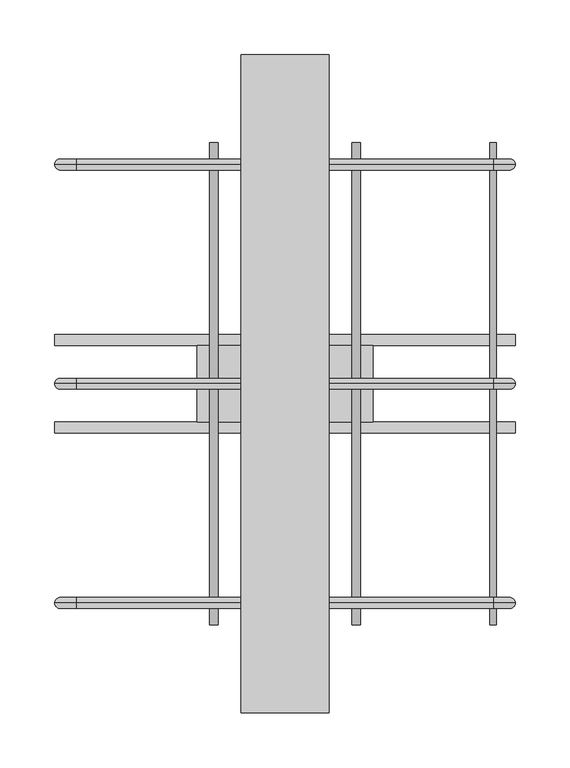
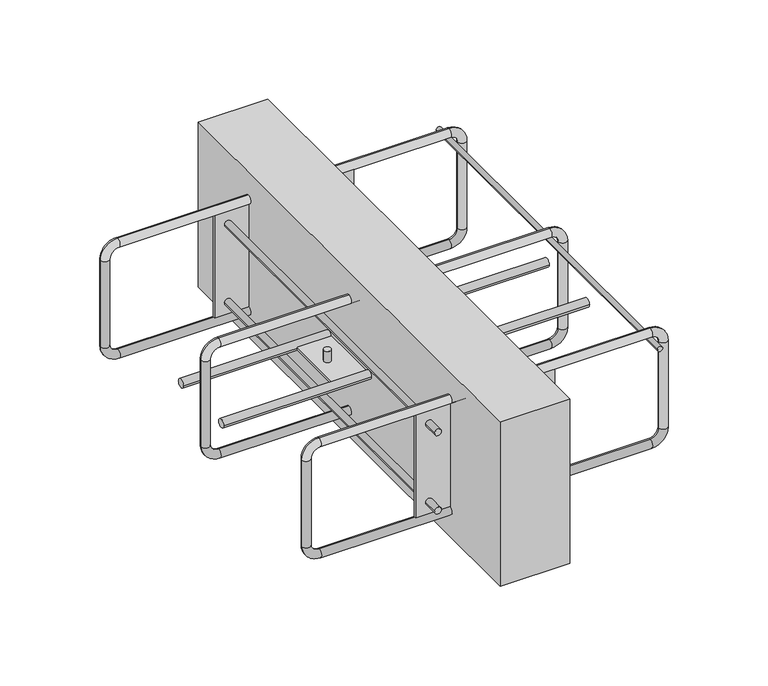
"""IFC4 building model written with IfcOpenShell, lengths in millimetres: fastener geometry, ACINOXplus_Typenreihe_Ux-Ox : OA+ S1."""

from ifc_helpers import new_model, si_unit, point, frame, frame_2d, origin, place, context, project, spatial, polyline, circle_curve, ellipse_curve, trimmed, segment, composite_curve, outline, extrude, source, transform, mapped, element, save
from ifc_brep_helpers import cylinder_surface, revolved_surface, advanced_brep


def fastener_464901d0(model_context):
    return source(origin(), model_context, "Body", "SolidModel", [
        extrude(outline(composite_curve([segment(trimmed(circle_curve(frame_2d((-40.5, 190.0)), 3.0), [point((-40.5, 193.0))], [point((-40.5, 187.0))], False, "CARTESIAN"), True, "CONTINUOUS"), segment(trimmed(circle_curve(frame_2d((-40.5, 190.0)), 3.0), [point((-40.5, 187.0))], [point((-40.5, 193.0))], False, "CARTESIAN"), True, "CONTINUOUS")], self_intersect=False)), frame((0.0, -220.0, 0.0), z_axis=(0.0, 1.0, 0.0), x_axis=(0.0, 0.0, 1.0)), (0.0, 0.0, 1.0), 440.0),
        extrude(outline(polyline([(40.0, 300.0), (40.0, -300.0), (-40.0, -300.0), (-40.0, 300.0), (40.0, 300.0)])), frame((0.0, 0.0, -200.0), z_axis=(0.0, 0.0, 1.0), x_axis=(1.0, 0.0, 0.0)), (0.0, 0.0, 1.0), 200.0),
        extrude(outline(composite_curve([segment(trimmed(circle_curve(frame_2d((-40.0, -100.0)), 5.0), [point((-45.0, -100.0))], [point((-35.0, -100.0))], False, "CARTESIAN"), True, "CONTINUOUS"), segment(trimmed(circle_curve(frame_2d((-40.0, -100.0)), 5.0), [point((-35.0, -100.0))], [point((-45.0, -100.0))], False, "CARTESIAN"), True, "CONTINUOUS")], self_intersect=False)), frame((-210.0, 0.0, 0.0), z_axis=(1.0, 0.0, 0.0), x_axis=(0.0, 1.0, 0.0)), (0.0, 0.0, 1.0), 420.0),
        extrude(outline(composite_curve([segment(trimmed(circle_curve(frame_2d((40.0, -100.0)), 5.0), [point((35.0, -100.0))], [point((45.0, -100.0))], False, "CARTESIAN"), True, "CONTINUOUS"), segment(trimmed(circle_curve(frame_2d((40.0, -100.0)), 5.0), [point((45.0, -100.0))], [point((35.0, -100.0))], False, "CARTESIAN"), True, "CONTINUOUS")], self_intersect=False)), frame((-210.0, 0.0, 0.0), z_axis=(1.0, 0.0, 0.0), x_axis=(0.0, 1.0, 0.0)), (0.0, 0.0, 1.0), 420.0),
        extrude(outline(composite_curve([segment(trimmed(circle_curve(frame_2d((-65.0, 0.0)), 4.0), [point((-61.0, 0.0))], [point((-69.0, 0.0))], False, "CARTESIAN"), True, "CONTINUOUS"), segment(trimmed(circle_curve(frame_2d((-65.0, 0.0)), 4.0), [point((-69.0, 0.0))], [point((-61.0, 0.0))], False, "CARTESIAN"), True, "CONTINUOUS")], self_intersect=False)), frame((0.0, 0.0, -98.5), z_axis=(0.0, 0.0, 1.0), x_axis=(1.0, 0.0, 0.0)), (0.0, 0.0, 1.0), 13.5),
        extrude(outline(composite_curve([segment(trimmed(circle_curve(frame_2d((65.0, 0.0)), 4.0), [point((69.0, 0.0))], [point((61.0, 0.0))], False, "CARTESIAN"), True, "CONTINUOUS"), segment(trimmed(circle_curve(frame_2d((65.0, 0.0)), 4.0), [point((61.0, 0.0))], [point((69.0, 0.0))], False, "CARTESIAN"), True, "CONTINUOUS")], self_intersect=False)), frame((0.0, 0.0, -98.5), z_axis=(0.0, 0.0, 1.0), x_axis=(1.0, 0.0, 0.0)), (0.0, 0.0, 1.0), 13.5),
        extrude(outline(composite_curve([segment(trimmed(circle_curve(frame_2d((-65.0, 0.0)), 4.0), [point((-69.0, 0.0))], [point((-61.0, 0.0))], False, "CARTESIAN"), True, "CONTINUOUS"), segment(trimmed(circle_curve(frame_2d((-65.0, 0.0)), 4.0), [point((-61.0, 0.0))], [point((-69.0, 0.0))], False, "CARTESIAN"), True, "CONTINUOUS")], self_intersect=False)), frame((0.0, 0.0, -115.0), z_axis=(0.0, 0.0, 1.0), x_axis=(1.0, 0.0, 0.0)), (0.0, 0.0, 1.0), 13.5),
        extrude(outline(composite_curve([segment(trimmed(circle_curve(frame_2d((65.0, 0.0)), 4.0), [point((61.0, 0.0))], [point((69.0, 0.0))], False, "CARTESIAN"), True, "CONTINUOUS"), segment(trimmed(circle_curve(frame_2d((65.0, 0.0)), 4.0), [point((69.0, 0.0))], [point((61.0, 0.0))], False, "CARTESIAN"), True, "CONTINUOUS")], self_intersect=False)), frame((0.0, 0.0, -115.0), z_axis=(0.0, 0.0, 1.0), x_axis=(1.0, 0.0, 0.0)), (0.0, 0.0, 1.0), 13.5),
        extrude(outline(polyline([(80.0, 35.0), (80.0, -35.0), (-80.0, -35.0), (-80.0, 35.0), (80.0, 35.0)])), frame((0.0, 0.0, -101.5), z_axis=(0.0, 0.0, 1.0), x_axis=(1.0, 0.0, 0.0)), (0.0, 0.0, 1.0), 3.0),
        extrude(outline(polyline([(80.0, -198.5), (80.0, -201.5), (-80.0, -201.5), (-80.0, -198.5), (80.0, -198.5)])), frame((0.0, 0.0, -162.5), z_axis=(0.0, 0.0, 1.0), x_axis=(1.0, 0.0, 0.0)), (0.0, 0.0, 1.0), 125.0),
        extrude(outline(polyline([(80.0, 201.5), (80.0, 198.5), (-80.0, 198.5), (-80.0, 201.5), (80.0, 201.5)])), frame((0.0, 0.0, -162.5), z_axis=(0.0, 0.0, 1.0), x_axis=(1.0, 0.0, 0.0)), (0.0, 0.0, 1.0), 125.0),
        extrude(outline(composite_curve([segment(trimmed(circle_curve(frame_2d((-147.5, -65.0)), 4.0), [point((-147.5, -69.0))], [point((-147.5, -61.0))], False, "CARTESIAN"), True, "CONTINUOUS"), segment(trimmed(circle_curve(frame_2d((-147.5, -65.0)), 4.0), [point((-147.5, -61.0))], [point((-147.5, -69.0))], False, "CARTESIAN"), True, "CONTINUOUS")], self_intersect=False)), frame((0.0, 201.5, 0.0), z_axis=(0.0, 1.0, 0.0), x_axis=(0.0, 0.0, 1.0)), (0.0, 0.0, 1.0), 18.5),
        extrude(outline(composite_curve([segment(trimmed(circle_curve(frame_2d((-147.5, -65.0)), 4.0), [point((-147.5, -61.0))], [point((-147.5, -69.0))], False, "CARTESIAN"), True, "CONTINUOUS"), segment(trimmed(circle_curve(frame_2d((-147.5, -65.0)), 4.0), [point((-147.5, -69.0))], [point((-147.5, -61.0))], False, "CARTESIAN"), True, "CONTINUOUS")], self_intersect=False)), frame((0.0, -220.0, 0.0), z_axis=(0.0, 1.0, 0.0), x_axis=(0.0, 0.0, 1.0)), (0.0, 0.0, 1.0), 18.5),
        extrude(outline(composite_curve([segment(trimmed(circle_curve(frame_2d((-147.5, -65.0)), 4.0), [point((-147.5, -69.0))], [point((-147.5, -61.0))], False, "CARTESIAN"), True, "CONTINUOUS"), segment(trimmed(circle_curve(frame_2d((-147.5, -65.0)), 4.0), [point((-147.5, -61.0))], [point((-147.5, -69.0))], False, "CARTESIAN"), True, "CONTINUOUS")], self_intersect=False)), frame((0.0, -198.5, 0.0), z_axis=(0.0, 1.0, 0.0), x_axis=(0.0, 0.0, 1.0)), (0.0, 0.0, 1.0), 397.0),
        extrude(outline(composite_curve([segment(trimmed(circle_curve(frame_2d((-147.5, 65.0)), 4.0), [point((-147.5, 61.0))], [point((-147.5, 69.0))], False, "CARTESIAN"), True, "CONTINUOUS"), segment(trimmed(circle_curve(frame_2d((-147.5, 65.0)), 4.0), [point((-147.5, 69.0))], [point((-147.5, 61.0))], False, "CARTESIAN"), True, "CONTINUOUS")], self_intersect=False)), frame((0.0, 201.5, 0.0), z_axis=(0.0, 1.0, 0.0), x_axis=(0.0, 0.0, 1.0)), (0.0, 0.0, 1.0), 18.5),
        extrude(outline(composite_curve([segment(trimmed(circle_curve(frame_2d((-147.5, 65.0)), 4.0), [point((-147.5, 69.0))], [point((-147.5, 61.0))], False, "CARTESIAN"), True, "CONTINUOUS"), segment(trimmed(circle_curve(frame_2d((-147.5, 65.0)), 4.0), [point((-147.5, 61.0))], [point((-147.5, 69.0))], False, "CARTESIAN"), True, "CONTINUOUS")], self_intersect=False)), frame((0.0, -220.0, 0.0), z_axis=(0.0, 1.0, 0.0), x_axis=(0.0, 0.0, 1.0)), (0.0, 0.0, 1.0), 18.5),
        extrude(outline(composite_curve([segment(trimmed(circle_curve(frame_2d((-147.5, 65.0)), 4.0), [point((-147.5, 61.0))], [point((-147.5, 69.0))], False, "CARTESIAN"), True, "CONTINUOUS"), segment(trimmed(circle_curve(frame_2d((-147.5, 65.0)), 4.0), [point((-147.5, 69.0))], [point((-147.5, 61.0))], False, "CARTESIAN"), True, "CONTINUOUS")], self_intersect=False)), frame((0.0, -198.5, 0.0), z_axis=(0.0, 1.0, 0.0), x_axis=(0.0, 0.0, 1.0)), (0.0, 0.0, 1.0), 397.0),
        extrude(outline(composite_curve([segment(trimmed(circle_curve(frame_2d((-52.5, -65.0)), 4.0), [point((-52.5, -69.0))], [point((-52.5, -61.0))], False, "CARTESIAN"), True, "CONTINUOUS"), segment(trimmed(circle_curve(frame_2d((-52.5, -65.0)), 4.0), [point((-52.5, -61.0))], [point((-52.5, -69.0))], False, "CARTESIAN"), True, "CONTINUOUS")], self_intersect=False)), frame((0.0, 201.5, 0.0), z_axis=(0.0, 1.0, 0.0), x_axis=(0.0, 0.0, 1.0)), (0.0, 0.0, 1.0), 18.5),
        extrude(outline(composite_curve([segment(trimmed(circle_curve(frame_2d((-52.5, -65.0)), 4.0), [point((-52.5, -61.0))], [point((-52.5, -69.0))], False, "CARTESIAN"), True, "CONTINUOUS"), segment(trimmed(circle_curve(frame_2d((-52.5, -65.0)), 4.0), [point((-52.5, -69.0))], [point((-52.5, -61.0))], False, "CARTESIAN"), True, "CONTINUOUS")], self_intersect=False)), frame((0.0, -220.0, 0.0), z_axis=(0.0, 1.0, 0.0), x_axis=(0.0, 0.0, 1.0)), (0.0, 0.0, 1.0), 18.5),
        extrude(outline(composite_curve([segment(trimmed(circle_curve(frame_2d((-52.5, -65.0)), 4.0), [point((-52.5, -69.0))], [point((-52.5, -61.0))], False, "CARTESIAN"), True, "CONTINUOUS"), segment(trimmed(circle_curve(frame_2d((-52.5, -65.0)), 4.0), [point((-52.5, -61.0))], [point((-52.5, -69.0))], False, "CARTESIAN"), True, "CONTINUOUS")], self_intersect=False)), frame((0.0, -198.5, 0.0), z_axis=(0.0, 1.0, 0.0), x_axis=(0.0, 0.0, 1.0)), (0.0, 0.0, 1.0), 397.0),
        extrude(outline(composite_curve([segment(trimmed(circle_curve(frame_2d((-52.5, 65.0)), 4.0), [point((-52.5, 61.0))], [point((-52.5, 69.0))], False, "CARTESIAN"), True, "CONTINUOUS"), segment(trimmed(circle_curve(frame_2d((-52.5, 65.0)), 4.0), [point((-52.5, 69.0))], [point((-52.5, 61.0))], False, "CARTESIAN"), True, "CONTINUOUS")], self_intersect=False)), frame((0.0, 201.5, 0.0), z_axis=(0.0, 1.0, 0.0), x_axis=(0.0, 0.0, 1.0)), (0.0, 0.0, 1.0), 18.5),
        extrude(outline(composite_curve([segment(trimmed(circle_curve(frame_2d((-52.5, 65.0)), 4.0), [point((-52.5, 69.0))], [point((-52.5, 61.0))], False, "CARTESIAN"), True, "CONTINUOUS"), segment(trimmed(circle_curve(frame_2d((-52.5, 65.0)), 4.0), [point((-52.5, 61.0))], [point((-52.5, 69.0))], False, "CARTESIAN"), True, "CONTINUOUS")], self_intersect=False)), frame((0.0, -220.0, 0.0), z_axis=(0.0, 1.0, 0.0), x_axis=(0.0, 0.0, 1.0)), (0.0, 0.0, 1.0), 18.5),
        extrude(outline(composite_curve([segment(trimmed(circle_curve(frame_2d((-52.5, 65.0)), 4.0), [point((-52.5, 61.0))], [point((-52.5, 69.0))], False, "CARTESIAN"), True, "CONTINUOUS"), segment(trimmed(circle_curve(frame_2d((-52.5, 65.0)), 4.0), [point((-52.5, 69.0))], [point((-52.5, 61.0))], False, "CARTESIAN"), True, "CONTINUOUS")], self_intersect=False)), frame((0.0, -198.5, 0.0), z_axis=(0.0, 1.0, 0.0), x_axis=(0.0, 0.0, 1.0)), (0.0, 0.0, 1.0), 397.0),
        advanced_brep(
        [(190.0, 0.0, -37.5), (190.0, 0.0, -27.5), (-190.0, 0.0, -27.5), (-190.0, 0.0, -37.5), (-200.0, 0.0, -47.5), (-210.0, 0.0, -47.5), (-210.0, 0.0, -152.5), (-200.0, 0.0, -152.5), (-190.0, 0.0, -162.5), (-190.0, 0.0, -172.5), (190.0, 0.0, -172.5), (190.0, 0.0, -162.5), (200.0, 0.0, -152.5), (210.0, 0.0, -152.5), (210.0, 0.0, -47.5), (200.0, 0.0, -47.5)],
        [
            (0, 1, circle_curve(frame((190.0, 0.0, -32.5), z_axis=(-1.0, 0.0, 0.0), x_axis=(0.0, 0.0, -1.0)), 5.0)),
            (1, 2),
            (2, 3, circle_curve(frame((-190.0, 0.0, -32.5), z_axis=(1.0, 0.0, 0.0), x_axis=(0.0, 0.0, -1.0)), 5.0)),
            (3, 0),
            (1, 0, circle_curve(frame((190.0, 0.0, -32.5), z_axis=(-1.0, 0.0, 0.0), x_axis=(0.0, 0.0, -1.0)), 5.0)),
            (3, 2, circle_curve(frame((-190.0, 0.0, -32.5), z_axis=(1.0, 0.0, 0.0), x_axis=(0.0, 0.0, -1.0)), 5.0)),
            (4, 3, circle_curve(frame((-190.0, 0.0, -47.5), z_axis=(0.0, 1.0, 0.0), x_axis=(0.0, 0.0, 1.0)), 10.0)),
            (2, 5, circle_curve(frame((-190.0, 0.0, -47.5), z_axis=(0.0, -1.0, 0.0), x_axis=(0.0, 0.0, 1.0)), 20.0)),
            (5, 4, circle_curve(frame((-205.0, 0.0, -47.5), z_axis=(0.0, 0.0, 1.0), x_axis=(1.0, 0.0, 0.0)), 5.0)),
            (4, 5, circle_curve(frame((-205.0, 0.0, -47.5), z_axis=(0.0, 0.0, 1.0), x_axis=(1.0, 0.0, 0.0)), 5.0)),
            (5, 6),
            (6, 7, circle_curve(frame((-205.0, 0.0, -152.5), z_axis=(0.0, 0.0, 1.0), x_axis=(1.0, 0.0, 0.0)), 5.0)),
            (7, 4),
            (7, 6, circle_curve(frame((-205.0, 0.0, -152.5), z_axis=(0.0, 0.0, 1.0), x_axis=(1.0, 0.0, 0.0)), 5.0)),
            (8, 7, circle_curve(frame((-190.0, 0.0, -152.5), z_axis=(0.0, 1.0, 0.0), x_axis=(-1.0, 0.0, 0.0)), 10.0)),
            (6, 9, circle_curve(frame((-190.0, 0.0, -152.5), z_axis=(0.0, -1.0, 0.0), x_axis=(-1.0, 0.0, 0.0)), 20.0)),
            (9, 8, circle_curve(frame((-190.0, 0.0, -167.5), z_axis=(-1.0, 0.0, 0.0), x_axis=(0.0, 0.0, 1.0)), 5.0)),
            (8, 9, circle_curve(frame((-190.0, 0.0, -167.5), z_axis=(-1.0, 0.0, 0.0), x_axis=(0.0, 0.0, 1.0)), 5.0)),
            (9, 10),
            (10, 11, circle_curve(frame((190.0, 0.0, -167.5), z_axis=(-1.0, 0.0, 0.0), x_axis=(0.0, 0.0, 1.0)), 5.0)),
            (11, 8),
            (11, 10, circle_curve(frame((190.0, 0.0, -167.5), z_axis=(-1.0, 0.0, 0.0), x_axis=(0.0, 0.0, 1.0)), 5.0)),
            (12, 11, circle_curve(frame((190.0, 0.0, -152.5), z_axis=(0.0, 1.0, 0.0), x_axis=(0.0, 0.0, -1.0)), 10.0)),
            (10, 13, circle_curve(frame((190.0, 0.0, -152.5), z_axis=(0.0, -1.0, 0.0), x_axis=(0.0, 0.0, -1.0)), 20.0)),
            (13, 12, circle_curve(frame((205.0, 0.0, -152.5), z_axis=(0.0, 0.0, -1.0), x_axis=(-1.0, 0.0, 0.0)), 5.0)),
            (12, 13, circle_curve(frame((205.0, 0.0, -152.5), z_axis=(0.0, 0.0, -1.0), x_axis=(-1.0, 0.0, 0.0)), 5.0)),
            (13, 14),
            (14, 15, circle_curve(frame((205.0, 0.0, -47.5), z_axis=(0.0, 0.0, -1.0), x_axis=(-1.0, 0.0, 0.0)), 5.0)),
            (15, 12),
            (15, 14, circle_curve(frame((205.0, 0.0, -47.5), z_axis=(0.0, 0.0, -1.0), x_axis=(-1.0, 0.0, 0.0)), 5.0)),
            (0, 15, circle_curve(frame((190.0, 0.0, -47.5), z_axis=(0.0, 1.0, 0.0), x_axis=(1.0, 0.0, 0.0)), 10.0)),
            (14, 1, circle_curve(frame((190.0, 0.0, -47.5), z_axis=(0.0, -1.0, 0.0), x_axis=(1.0, 0.0, 0.0)), 20.0)),
        ],
        [
            cylinder_surface(frame((190.0, 0.0, -32.5), z_axis=(1.0, 0.0, 0.0), x_axis=(0.0, 0.0, -1.0)), 5.0),
            revolved_surface(trimmed(ellipse_curve(frame((-190.0, 0.0, -32.5), z_axis=(1.0, 0.0, 0.0), x_axis=(0.0, 0.0, -1.0)), 5.0, 5.0), [point((-190.0, 0.0, -27.5))], [point((-190.0, 0.0, -37.5))], True, "CARTESIAN"), (-190.0, 0.0, -47.5), (0.0, -1.0, 0.0)),
            revolved_surface(trimmed(ellipse_curve(frame((-190.0, 0.0, -32.5), z_axis=(1.0, 0.0, 0.0), x_axis=(0.0, 0.0, -1.0)), 5.0, 5.0), [point((-190.0, 0.0, -37.5))], [point((-190.0, 0.0, -27.5))], True, "CARTESIAN"), (-190.0, 0.0, -47.5), (0.0, -1.0, 0.0)),
            cylinder_surface(frame((-205.0, 0.0, -47.5), z_axis=(0.0, 0.0, 1.0), x_axis=(1.0, 0.0, 0.0)), 5.0),
            revolved_surface(trimmed(ellipse_curve(frame((-205.0, 0.0, -152.5), z_axis=(0.0, 0.0, 1.0), x_axis=(1.0, 0.0, 0.0)), 5.0, 5.0), [point((-210.0, 0.0, -152.5))], [point((-200.0, 0.0, -152.5))], True, "CARTESIAN"), (-190.0, 0.0, -152.5), (0.0, -1.0, 0.0)),
            revolved_surface(trimmed(ellipse_curve(frame((-205.0, 0.0, -152.5), z_axis=(0.0, 0.0, 1.0), x_axis=(1.0, 0.0, 0.0)), 5.0, 5.0), [point((-200.0, 0.0, -152.5))], [point((-210.0, 0.0, -152.5))], True, "CARTESIAN"), (-190.0, 0.0, -152.5), (0.0, -1.0, 0.0)),
            cylinder_surface(frame((-190.0, 0.0, -167.5), z_axis=(-1.0, 0.0, 0.0), x_axis=(0.0, 0.0, 1.0)), 5.0),
            revolved_surface(trimmed(ellipse_curve(frame((190.0, 0.0, -167.5), z_axis=(-1.0, 0.0, 0.0), x_axis=(0.0, 0.0, 1.0)), 5.0, 5.0), [point((190.0, 0.0, -172.5))], [point((190.0, 0.0, -162.5))], True, "CARTESIAN"), (190.0, 0.0, -152.5), (0.0, -1.0, 0.0)),
            revolved_surface(trimmed(ellipse_curve(frame((190.0, 0.0, -167.5), z_axis=(-1.0, 0.0, 0.0), x_axis=(0.0, 0.0, 1.0)), 5.0, 5.0), [point((190.0, 0.0, -162.5))], [point((190.0, 0.0, -172.5))], True, "CARTESIAN"), (190.0, 0.0, -152.5), (0.0, -1.0, 0.0)),
            cylinder_surface(frame((205.0, 0.0, -152.5), z_axis=(0.0, 0.0, -1.0), x_axis=(-1.0, 0.0, 0.0)), 5.0),
            revolved_surface(trimmed(ellipse_curve(frame((205.0, 0.0, -47.5), z_axis=(0.0, 0.0, -1.0), x_axis=(-1.0, 0.0, 0.0)), 5.0, 5.0), [point((210.0, 0.0, -47.5))], [point((200.0, 0.0, -47.5))], True, "CARTESIAN"), (190.0, 0.0, -47.5), (0.0, -1.0, 0.0)),
            revolved_surface(trimmed(ellipse_curve(frame((205.0, 0.0, -47.5), z_axis=(0.0, 0.0, -1.0), x_axis=(-1.0, 0.0, 0.0)), 5.0, 5.0), [point((200.0, 0.0, -47.5))], [point((210.0, 0.0, -47.5))], True, "CARTESIAN"), (190.0, 0.0, -47.5), (0.0, -1.0, 0.0)),
        ],
        [
            (0, [[1, 2, 3, 4]]),
            (0, [[5, -4, 6, -2]]),
            (1, [[7, -3, 8, 9]]),
            (2, [[-8, -6, -7, 10]]),
            (3, [[-9, 11, 12, 13]]),
            (3, [[-10, -13, 14, -11]]),
            (4, [[15, -12, 16, 17]]),
            (5, [[-16, -14, -15, 18]]),
            (6, [[-17, 19, 20, 21]]),
            (6, [[-18, -21, 22, -19]]),
            (7, [[23, -20, 24, 25]]),
            (8, [[-24, -22, -23, 26]]),
            (9, [[-25, 27, 28, 29]]),
            (9, [[-26, -29, 30, -27]]),
            (10, [[31, -28, 32, -1]]),
            (11, [[-32, -30, -31, -5]]),
        ],
    ),
        advanced_brep(
        [(190.0, 200.0, -37.5), (190.0, 200.0, -27.5), (-190.0, 200.0, -27.5), (-190.0, 200.0, -37.5), (-200.0, 200.0, -47.5), (-210.0, 200.0, -47.5), (-210.0, 200.0, -152.5), (-200.0, 200.0, -152.5), (-190.0, 200.0, -162.5), (-190.0, 200.0, -172.5), (190.0, 200.0, -172.5), (190.0, 200.0, -162.5), (200.0, 200.0, -152.5), (210.0, 200.0, -152.5), (210.0, 200.0, -47.5), (200.0, 200.0, -47.5)],
        [
            (0, 1, circle_curve(frame((190.0, 200.0, -32.5), z_axis=(-1.0, 0.0, 0.0), x_axis=(0.0, 0.0, -1.0)), 5.0)),
            (1, 2),
            (2, 3, circle_curve(frame((-190.0, 200.0, -32.5), z_axis=(1.0, 0.0, 0.0), x_axis=(0.0, 0.0, -1.0)), 5.0)),
            (3, 0),
            (1, 0, circle_curve(frame((190.0, 200.0, -32.5), z_axis=(-1.0, 0.0, 0.0), x_axis=(0.0, 0.0, -1.0)), 5.0)),
            (3, 2, circle_curve(frame((-190.0, 200.0, -32.5), z_axis=(1.0, 0.0, 0.0), x_axis=(0.0, 0.0, -1.0)), 5.0)),
            (4, 3, circle_curve(frame((-190.0, 200.0, -47.5), z_axis=(0.0, 1.0, 0.0), x_axis=(0.0, 0.0, 1.0)), 10.0)),
            (2, 5, circle_curve(frame((-190.0, 200.0, -47.5), z_axis=(0.0, -1.0, 0.0), x_axis=(0.0, 0.0, 1.0)), 20.0)),
            (5, 4, circle_curve(frame((-205.0, 200.0, -47.5), z_axis=(0.0, 0.0, 1.0), x_axis=(1.0, 0.0, 0.0)), 5.0)),
            (4, 5, circle_curve(frame((-205.0, 200.0, -47.5), z_axis=(0.0, 0.0, 1.0), x_axis=(1.0, 0.0, 0.0)), 5.0)),
            (5, 6),
            (6, 7, circle_curve(frame((-205.0, 200.0, -152.5), z_axis=(0.0, 0.0, 1.0), x_axis=(1.0, 0.0, 0.0)), 5.0)),
            (7, 4),
            (7, 6, circle_curve(frame((-205.0, 200.0, -152.5), z_axis=(0.0, 0.0, 1.0), x_axis=(1.0, 0.0, 0.0)), 5.0)),
            (8, 7, circle_curve(frame((-190.0, 200.0, -152.5), z_axis=(0.0, 1.0, 0.0), x_axis=(-1.0, 0.0, 0.0)), 10.0)),
            (6, 9, circle_curve(frame((-190.0, 200.0, -152.5), z_axis=(0.0, -1.0, 0.0), x_axis=(-1.0, 0.0, 0.0)), 20.0)),
            (9, 8, circle_curve(frame((-190.0, 200.0, -167.5), z_axis=(-1.0, 0.0, 0.0), x_axis=(0.0, 0.0, 1.0)), 5.0)),
            (8, 9, circle_curve(frame((-190.0, 200.0, -167.5), z_axis=(-1.0, 0.0, 0.0), x_axis=(0.0, 0.0, 1.0)), 5.0)),
            (9, 10),
            (10, 11, circle_curve(frame((190.0, 200.0, -167.5), z_axis=(-1.0, 0.0, 0.0), x_axis=(0.0, 0.0, 1.0)), 5.0)),
            (11, 8),
            (11, 10, circle_curve(frame((190.0, 200.0, -167.5), z_axis=(-1.0, 0.0, 0.0), x_axis=(0.0, 0.0, 1.0)), 5.0)),
            (12, 11, circle_curve(frame((190.0, 200.0, -152.5), z_axis=(0.0, 1.0, 0.0), x_axis=(0.0, 0.0, -1.0)), 10.0)),
            (10, 13, circle_curve(frame((190.0, 200.0, -152.5), z_axis=(0.0, -1.0, 0.0), x_axis=(0.0, 0.0, -1.0)), 20.0)),
            (13, 12, circle_curve(frame((205.0, 200.0, -152.5), z_axis=(0.0, 0.0, -1.0), x_axis=(-1.0, 0.0, 0.0)), 5.0)),
            (12, 13, circle_curve(frame((205.0, 200.0, -152.5), z_axis=(0.0, 0.0, -1.0), x_axis=(-1.0, 0.0, 0.0)), 5.0)),
            (13, 14),
            (14, 15, circle_curve(frame((205.0, 200.0, -47.5), z_axis=(0.0, 0.0, -1.0), x_axis=(-1.0, 0.0, 0.0)), 5.0)),
            (15, 12),
            (15, 14, circle_curve(frame((205.0, 200.0, -47.5), z_axis=(0.0, 0.0, -1.0), x_axis=(-1.0, 0.0, 0.0)), 5.0)),
            (0, 15, circle_curve(frame((190.0, 200.0, -47.5), z_axis=(0.0, 1.0, 0.0), x_axis=(1.0, 0.0, 0.0)), 10.0)),
            (14, 1, circle_curve(frame((190.0, 200.0, -47.5), z_axis=(0.0, -1.0, 0.0), x_axis=(1.0, 0.0, 0.0)), 20.0)),
        ],
        [
            cylinder_surface(frame((190.0, 200.0, -32.5), z_axis=(1.0, 0.0, 0.0), x_axis=(0.0, 0.0, -1.0)), 5.0),
            revolved_surface(trimmed(ellipse_curve(frame((-190.0, 200.0, -32.5), z_axis=(1.0, 0.0, 0.0), x_axis=(0.0, 0.0, -1.0)), 5.0, 5.0), [point((-190.0, 200.0, -27.5))], [point((-190.0, 200.0, -37.5))], True, "CARTESIAN"), (-190.0, 200.0, -47.5), (0.0, -1.0, 0.0)),
            revolved_surface(trimmed(ellipse_curve(frame((-190.0, 200.0, -32.5), z_axis=(1.0, 0.0, 0.0), x_axis=(0.0, 0.0, -1.0)), 5.0, 5.0), [point((-190.0, 200.0, -37.5))], [point((-190.0, 200.0, -27.5))], True, "CARTESIAN"), (-190.0, 200.0, -47.5), (0.0, -1.0, 0.0)),
            cylinder_surface(frame((-205.0, 200.0, -47.5), z_axis=(0.0, 0.0, 1.0), x_axis=(1.0, 0.0, 0.0)), 5.0),
            revolved_surface(trimmed(ellipse_curve(frame((-205.0, 200.0, -152.5), z_axis=(0.0, 0.0, 1.0), x_axis=(1.0, 0.0, 0.0)), 5.0, 5.0), [point((-210.0, 200.0, -152.5))], [point((-200.0, 200.0, -152.5))], True, "CARTESIAN"), (-190.0, 200.0, -152.5), (0.0, -1.0, 0.0)),
            revolved_surface(trimmed(ellipse_curve(frame((-205.0, 200.0, -152.5), z_axis=(0.0, 0.0, 1.0), x_axis=(1.0, 0.0, 0.0)), 5.0, 5.0), [point((-200.0, 200.0, -152.5))], [point((-210.0, 200.0, -152.5))], True, "CARTESIAN"), (-190.0, 200.0, -152.5), (0.0, -1.0, 0.0)),
            cylinder_surface(frame((-190.0, 200.0, -167.5), z_axis=(-1.0, 0.0, 0.0), x_axis=(0.0, 0.0, 1.0)), 5.0),
            revolved_surface(trimmed(ellipse_curve(frame((190.0, 200.0, -167.5), z_axis=(-1.0, 0.0, 0.0), x_axis=(0.0, 0.0, 1.0)), 5.0, 5.0), [point((190.0, 200.0, -172.5))], [point((190.0, 200.0, -162.5))], True, "CARTESIAN"), (190.0, 200.0, -152.5), (0.0, -1.0, 0.0)),
            revolved_surface(trimmed(ellipse_curve(frame((190.0, 200.0, -167.5), z_axis=(-1.0, 0.0, 0.0), x_axis=(0.0, 0.0, 1.0)), 5.0, 5.0), [point((190.0, 200.0, -162.5))], [point((190.0, 200.0, -172.5))], True, "CARTESIAN"), (190.0, 200.0, -152.5), (0.0, -1.0, 0.0)),
            cylinder_surface(frame((205.0, 200.0, -152.5), z_axis=(0.0, 0.0, -1.0), x_axis=(-1.0, 0.0, 0.0)), 5.0),
            revolved_surface(trimmed(ellipse_curve(frame((205.0, 200.0, -47.5), z_axis=(0.0, 0.0, -1.0), x_axis=(-1.0, 0.0, 0.0)), 5.0, 5.0), [point((210.0, 200.0, -47.5))], [point((200.0, 200.0, -47.5))], True, "CARTESIAN"), (190.0, 200.0, -47.5), (0.0, -1.0, 0.0)),
            revolved_surface(trimmed(ellipse_curve(frame((205.0, 200.0, -47.5), z_axis=(0.0, 0.0, -1.0), x_axis=(-1.0, 0.0, 0.0)), 5.0, 5.0), [point((200.0, 200.0, -47.5))], [point((210.0, 200.0, -47.5))], True, "CARTESIAN"), (190.0, 200.0, -47.5), (0.0, -1.0, 0.0)),
        ],
        [
            (0, [[1, 2, 3, 4]]),
            (0, [[5, -4, 6, -2]]),
            (1, [[7, -3, 8, 9]]),
            (2, [[-8, -6, -7, 10]]),
            (3, [[-9, 11, 12, 13]]),
            (3, [[-10, -13, 14, -11]]),
            (4, [[15, -12, 16, 17]]),
            (5, [[-16, -14, -15, 18]]),
            (6, [[-17, 19, 20, 21]]),
            (6, [[-18, -21, 22, -19]]),
            (7, [[23, -20, 24, 25]]),
            (8, [[-24, -22, -23, 26]]),
            (9, [[-25, 27, 28, 29]]),
            (9, [[-26, -29, 30, -27]]),
            (10, [[31, -28, 32, -1]]),
            (11, [[-32, -30, -31, -5]]),
        ],
    ),
        advanced_brep(
        [(190.0, -200.0, -37.5), (190.0, -200.0, -27.5), (-190.0, -200.0, -27.5), (-190.0, -200.0, -37.5), (-200.0, -200.0, -47.5), (-210.0, -200.0, -47.5), (-210.0, -200.0, -152.5), (-200.0, -200.0, -152.5), (-190.0, -200.0, -162.5), (-190.0, -200.0, -172.5), (190.0, -200.0, -172.5), (190.0, -200.0, -162.5), (200.0, -200.0, -152.5), (210.0, -200.0, -152.5), (210.0, -200.0, -47.5), (200.0, -200.0, -47.5)],
        [
            (0, 1, circle_curve(frame((190.0, -200.0, -32.5), z_axis=(-1.0, 0.0, 0.0), x_axis=(0.0, 0.0, -1.0)), 5.0)),
            (1, 2),
            (2, 3, circle_curve(frame((-190.0, -200.0, -32.5), z_axis=(1.0, 0.0, 0.0), x_axis=(0.0, 0.0, -1.0)), 5.0)),
            (3, 0),
            (1, 0, circle_curve(frame((190.0, -200.0, -32.5), z_axis=(-1.0, 0.0, 0.0), x_axis=(0.0, 0.0, -1.0)), 5.0)),
            (3, 2, circle_curve(frame((-190.0, -200.0, -32.5), z_axis=(1.0, 0.0, 0.0), x_axis=(0.0, 0.0, -1.0)), 5.0)),
            (4, 3, circle_curve(frame((-190.0, -200.0, -47.5), z_axis=(0.0, 1.0, 0.0), x_axis=(0.0, 0.0, 1.0)), 10.0)),
            (2, 5, circle_curve(frame((-190.0, -200.0, -47.5), z_axis=(0.0, -1.0, 0.0), x_axis=(0.0, 0.0, 1.0)), 20.0)),
            (5, 4, circle_curve(frame((-205.0, -200.0, -47.5), z_axis=(0.0, 0.0, 1.0), x_axis=(1.0, 0.0, 0.0)), 5.0)),
            (4, 5, circle_curve(frame((-205.0, -200.0, -47.5), z_axis=(0.0, 0.0, 1.0), x_axis=(1.0, 0.0, 0.0)), 5.0)),
            (5, 6),
            (6, 7, circle_curve(frame((-205.0, -200.0, -152.5), z_axis=(0.0, 0.0, 1.0), x_axis=(1.0, 0.0, 0.0)), 5.0)),
            (7, 4),
            (7, 6, circle_curve(frame((-205.0, -200.0, -152.5), z_axis=(0.0, 0.0, 1.0), x_axis=(1.0, 0.0, 0.0)), 5.0)),
            (8, 7, circle_curve(frame((-190.0, -200.0, -152.5), z_axis=(0.0, 1.0, 0.0), x_axis=(-1.0, 0.0, 0.0)), 10.0)),
            (6, 9, circle_curve(frame((-190.0, -200.0, -152.5), z_axis=(0.0, -1.0, 0.0), x_axis=(-1.0, 0.0, 0.0)), 20.0)),
            (9, 8, circle_curve(frame((-190.0, -200.0, -167.5), z_axis=(-1.0, 0.0, 0.0), x_axis=(0.0, 0.0, 1.0)), 5.0)),
            (8, 9, circle_curve(frame((-190.0, -200.0, -167.5), z_axis=(-1.0, 0.0, 0.0), x_axis=(0.0, 0.0, 1.0)), 5.0)),
            (9, 10),
            (10, 11, circle_curve(frame((190.0, -200.0, -167.5), z_axis=(-1.0, 0.0, 0.0), x_axis=(0.0, 0.0, 1.0)), 5.0)),
            (11, 8),
            (11, 10, circle_curve(frame((190.0, -200.0, -167.5), z_axis=(-1.0, 0.0, 0.0), x_axis=(0.0, 0.0, 1.0)), 5.0)),
            (12, 11, circle_curve(frame((190.0, -200.0, -152.5), z_axis=(0.0, 1.0, 0.0), x_axis=(0.0, 0.0, -1.0)), 10.0)),
            (10, 13, circle_curve(frame((190.0, -200.0, -152.5), z_axis=(0.0, -1.0, 0.0), x_axis=(0.0, 0.0, -1.0)), 20.0)),
            (13, 12, circle_curve(frame((205.0, -200.0, -152.5), z_axis=(0.0, 0.0, -1.0), x_axis=(-1.0, 0.0, 0.0)), 5.0)),
            (12, 13, circle_curve(frame((205.0, -200.0, -152.5), z_axis=(0.0, 0.0, -1.0), x_axis=(-1.0, 0.0, 0.0)), 5.0)),
            (13, 14),
            (14, 15, circle_curve(frame((205.0, -200.0, -47.5), z_axis=(0.0, 0.0, -1.0), x_axis=(-1.0, 0.0, 0.0)), 5.0)),
            (15, 12),
            (15, 14, circle_curve(frame((205.0, -200.0, -47.5), z_axis=(0.0, 0.0, -1.0), x_axis=(-1.0, 0.0, 0.0)), 5.0)),
            (0, 15, circle_curve(frame((190.0, -200.0, -47.5), z_axis=(0.0, 1.0, 0.0), x_axis=(1.0, 0.0, 0.0)), 10.0)),
            (14, 1, circle_curve(frame((190.0, -200.0, -47.5), z_axis=(0.0, -1.0, 0.0), x_axis=(1.0, 0.0, 0.0)), 20.0)),
        ],
        [
            cylinder_surface(frame((190.0, -200.0, -32.5), z_axis=(1.0, 0.0, 0.0), x_axis=(0.0, 0.0, -1.0)), 5.0),
            revolved_surface(trimmed(ellipse_curve(frame((-190.0, -200.0, -32.5), z_axis=(1.0, 0.0, 0.0), x_axis=(0.0, 0.0, -1.0)), 5.0, 5.0), [point((-190.0, -200.0, -27.5))], [point((-190.0, -200.0, -37.5))], True, "CARTESIAN"), (-190.0, -200.0, -47.5), (0.0, -1.0, 0.0)),
            revolved_surface(trimmed(ellipse_curve(frame((-190.0, -200.0, -32.5), z_axis=(1.0, 0.0, 0.0), x_axis=(0.0, 0.0, -1.0)), 5.0, 5.0), [point((-190.0, -200.0, -37.5))], [point((-190.0, -200.0, -27.5))], True, "CARTESIAN"), (-190.0, -200.0, -47.5), (0.0, -1.0, 0.0)),
            cylinder_surface(frame((-205.0, -200.0, -47.5), z_axis=(0.0, 0.0, 1.0), x_axis=(1.0, 0.0, 0.0)), 5.0),
            revolved_surface(trimmed(ellipse_curve(frame((-205.0, -200.0, -152.5), z_axis=(0.0, 0.0, 1.0), x_axis=(1.0, 0.0, 0.0)), 5.0, 5.0), [point((-210.0, -200.0, -152.5))], [point((-200.0, -200.0, -152.5))], True, "CARTESIAN"), (-190.0, -200.0, -152.5), (0.0, -1.0, 0.0)),
            revolved_surface(trimmed(ellipse_curve(frame((-205.0, -200.0, -152.5), z_axis=(0.0, 0.0, 1.0), x_axis=(1.0, 0.0, 0.0)), 5.0, 5.0), [point((-200.0, -200.0, -152.5))], [point((-210.0, -200.0, -152.5))], True, "CARTESIAN"), (-190.0, -200.0, -152.5), (0.0, -1.0, 0.0)),
            cylinder_surface(frame((-190.0, -200.0, -167.5), z_axis=(-1.0, 0.0, 0.0), x_axis=(0.0, 0.0, 1.0)), 5.0),
            revolved_surface(trimmed(ellipse_curve(frame((190.0, -200.0, -167.5), z_axis=(-1.0, 0.0, 0.0), x_axis=(0.0, 0.0, 1.0)), 5.0, 5.0), [point((190.0, -200.0, -172.5))], [point((190.0, -200.0, -162.5))], True, "CARTESIAN"), (190.0, -200.0, -152.5), (0.0, -1.0, 0.0)),
            revolved_surface(trimmed(ellipse_curve(frame((190.0, -200.0, -167.5), z_axis=(-1.0, 0.0, 0.0), x_axis=(0.0, 0.0, 1.0)), 5.0, 5.0), [point((190.0, -200.0, -162.5))], [point((190.0, -200.0, -172.5))], True, "CARTESIAN"), (190.0, -200.0, -152.5), (0.0, -1.0, 0.0)),
            cylinder_surface(frame((205.0, -200.0, -152.5), z_axis=(0.0, 0.0, -1.0), x_axis=(-1.0, 0.0, 0.0)), 5.0),
            revolved_surface(trimmed(ellipse_curve(frame((205.0, -200.0, -47.5), z_axis=(0.0, 0.0, -1.0), x_axis=(-1.0, 0.0, 0.0)), 5.0, 5.0), [point((210.0, -200.0, -47.5))], [point((200.0, -200.0, -47.5))], True, "CARTESIAN"), (190.0, -200.0, -47.5), (0.0, -1.0, 0.0)),
            revolved_surface(trimmed(ellipse_curve(frame((205.0, -200.0, -47.5), z_axis=(0.0, 0.0, -1.0), x_axis=(-1.0, 0.0, 0.0)), 5.0, 5.0), [point((200.0, -200.0, -47.5))], [point((210.0, -200.0, -47.5))], True, "CARTESIAN"), (190.0, -200.0, -47.5), (0.0, -1.0, 0.0)),
        ],
        [
            (0, [[1, 2, 3, 4]]),
            (0, [[5, -4, 6, -2]]),
            (1, [[7, -3, 8, 9]]),
            (2, [[-8, -6, -7, 10]]),
            (3, [[-9, 11, 12, 13]]),
            (3, [[-10, -13, 14, -11]]),
            (4, [[15, -12, 16, 17]]),
            (5, [[-16, -14, -15, 18]]),
            (6, [[-17, 19, 20, 21]]),
            (6, [[-18, -21, 22, -19]]),
            (7, [[23, -20, 24, 25]]),
            (8, [[-24, -22, -23, 26]]),
            (9, [[-25, 27, 28, 29]]),
            (9, [[-26, -29, 30, -27]]),
            (10, [[31, -28, 32, -1]]),
            (11, [[-32, -30, -31, -5]]),
        ],
    ),
    ])


if __name__ == "__main__":
    model = new_model("IFC4")
    model_context = context("Model", 3, world=origin())
    ifc_project = project(units=[si_unit("LENGTHUNIT", "METRE", prefix="MILLI")], contexts=[model_context])
    site = spatial("IfcSite", under=ifc_project)
    building = spatial("IfcBuilding", under=site)
    placement = place(None, origin())
    fastener_shape = fastener_464901d0(model_context)
    element("IfcFastener", 1, ObjectType="ACINOXplus_Typenreihe_Ux-Ox : OA+ S1", at=placement, inside=building, context=model_context, shape_type="MappedRepresentation", body=[
        mapped(fastener_shape, transform((0.0, 0.0, 0.0), x_axis=(1.0, 0.0, 0.0), y_axis=(0.0, 1.0, 0.0), z_axis=(0.0, 0.0, 1.0))),
    ])
    save(model, "model.ifc")
